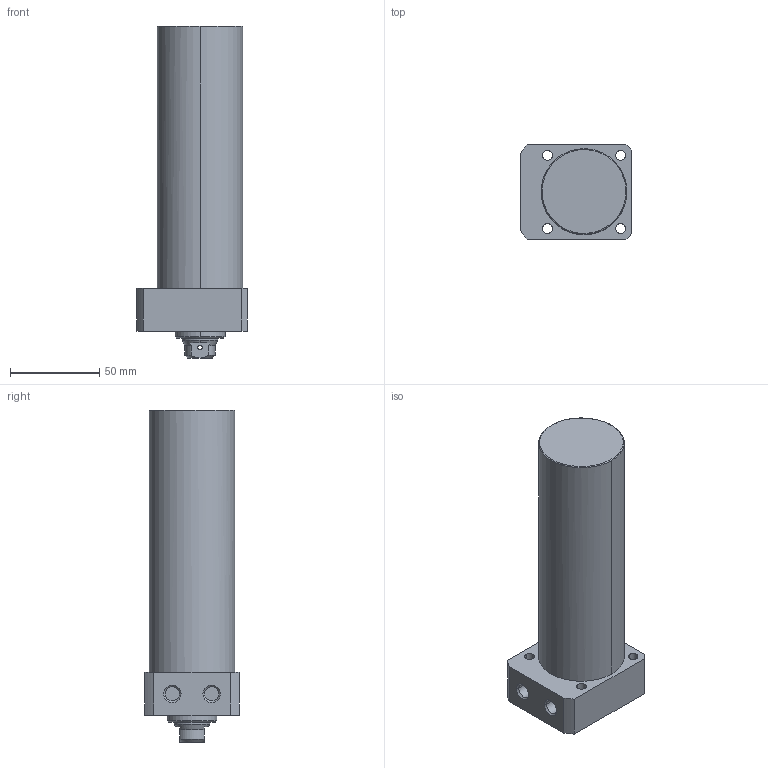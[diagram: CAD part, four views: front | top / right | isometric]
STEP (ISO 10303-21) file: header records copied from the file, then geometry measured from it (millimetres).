
FILE_DESCRIPTION((' '),'2;1');
FILE_NAME( 'TLLR-048CB-120.STEP.stp', '2025-10-24T16:34:34', (' '), ('--- Datakit www.datakit.com---'), ' Datakit CrossCadWare V2024.1 Dec 21 2023', 'Mastercam 2025', ' ');
FILE_SCHEMA(('AUTOMOTIVE_DESIGN { 1 0 10303 214 1 1 1 1 }'));
Length unit declared in the file: millimetre
Products named in the file (1): TLLR-048CB-120
Bounding box: 62 x 53 x 186 mm (x, y, z)
Volume: 344319.1 mm3; surface area: 37569.1 mm2
Topology: 1 solids, 1 shells, 67 faces, 197 edges, 136 vertices
Faces by surface type: cylinder 32, plane 19, cone 14, torus 2
Entity records: 3066 total; most frequent: CARTESIAN_POINT 1147, DIRECTION 426, ORIENTED_EDGE 390, EDGE_CURVE 195, AXIS2_PLACEMENT_3D 179, VERTEX_POINT 136, CIRCLE 111, EDGE_LOOP 85
